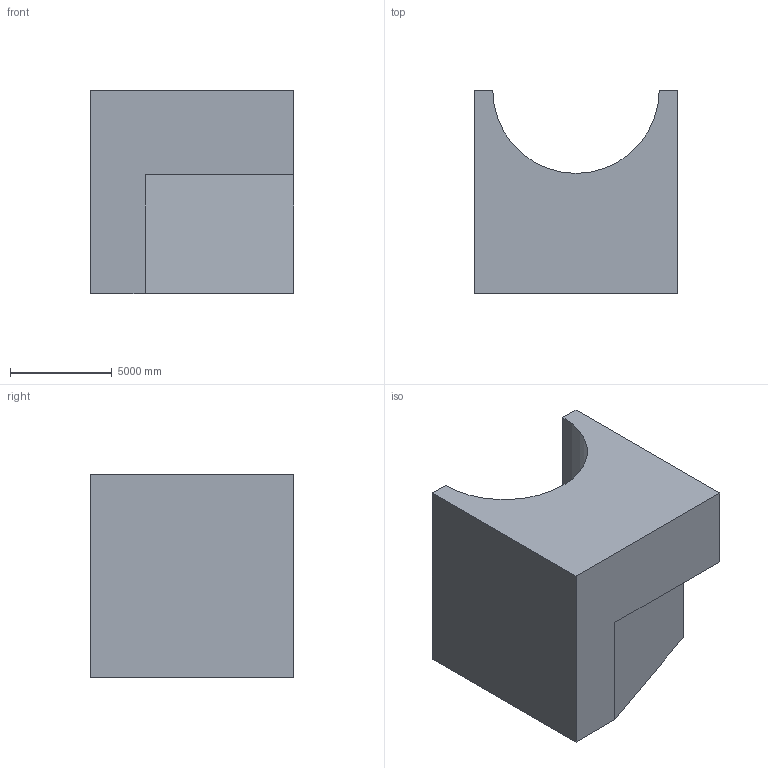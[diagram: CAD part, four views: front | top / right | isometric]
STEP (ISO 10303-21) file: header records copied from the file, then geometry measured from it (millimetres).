
FILE_DESCRIPTION (( 'STEP AP203' ), '1' );
FILE_NAME ('3.STEP', '2022-08-30T13:59:19', ( 'user' ), ( '' ), 'SwSTEP 2.0', 'SolidWorks 2021', '' );
FILE_SCHEMA (( 'CONFIG_CONTROL_DESIGN' ));
Length unit declared in the file: centimetre
Products named in the file (1): 3
Bounding box: 10000 x 10000 x 10000 mm (x, y, z)
Volume: 682298365196.1 mm3; surface area: 581691105.9 mm2
Topology: 1 solids, 1 shells, 10 faces, 24 edges, 16 vertices
Faces by surface type: plane 9, cylinder 1
Entity records: 367 total; most frequent: CARTESIAN_POINT 51, DIRECTION 48, ORIENTED_EDGE 48, EDGE_CURVE 24, LINE 22, VECTOR 22, VERTEX_POINT 16, AXIS2_PLACEMENT_3D 13
